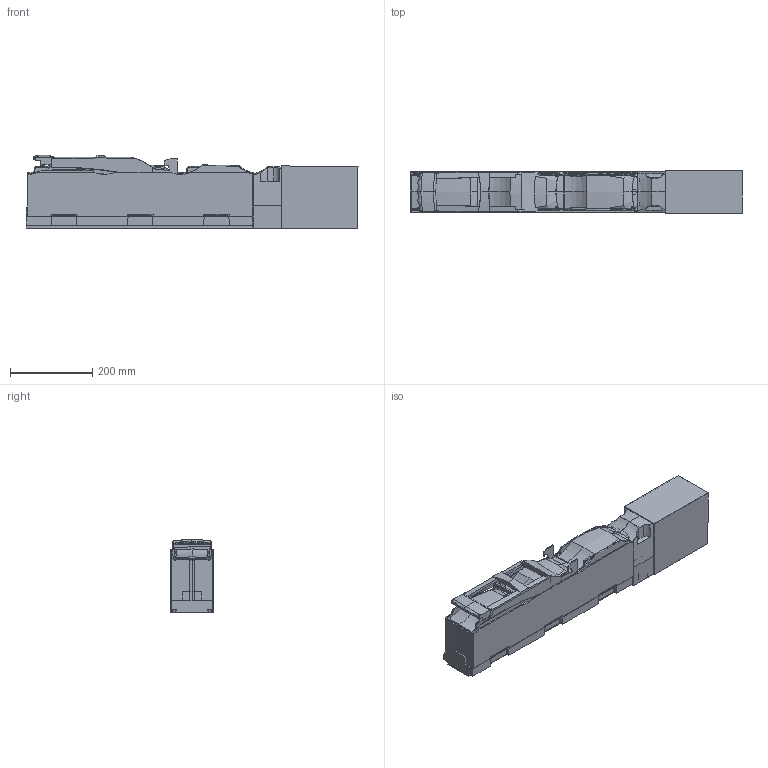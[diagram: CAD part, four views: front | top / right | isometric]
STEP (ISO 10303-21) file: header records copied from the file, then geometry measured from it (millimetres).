
FILE_DESCRIPTION(/* description */ (''),/* implementation_level */ '2;1');
FILE_NAME(/* name */ 'ARS 630kVA - 3 - 2M.stp',/* time_stamp */ '2022-01-13T08:49:09+01:00',/* author */ (''),/* organization */ (''),/* preprocessor_version */ 'ST-DEVELOPER v18.1',/* originating_system */ 'SIEMENS PLM Software NX 1957',/* authorisation */ '');
FILE_SCHEMA (('AUTOMOTIVE_DESIGN { 1 0 10303 214 3 1 1 1 }'));
Products named in the file (1): 710_5304BBFCn14w
Bounding box: 805.33 x 103 x 177.31 mm (x, y, z)
Volume: 1506194.9 mm3; surface area: 1126331.9 mm2
Topology: 8 solids, 9 shells, 1518 faces, 4585 edges, 3063 vertices
Faces by surface type: plane 1033, bspline 178, cylinder 134, extrusion 103, cone 57, torus 9, revolution 4
Full cylindrical faces by diameter (mm): 9.5 x3
Entity records: 162849 total; most frequent: CARTESIAN_POINT 121656, ORIENTED_EDGE 9156, DIRECTION 6499, EDGE_CURVE 4582, VERTEX_POINT 3063, VECTOR 3059, LINE 2956, AXIS2_PLACEMENT_3D 1718
